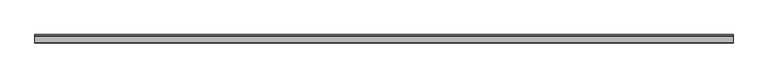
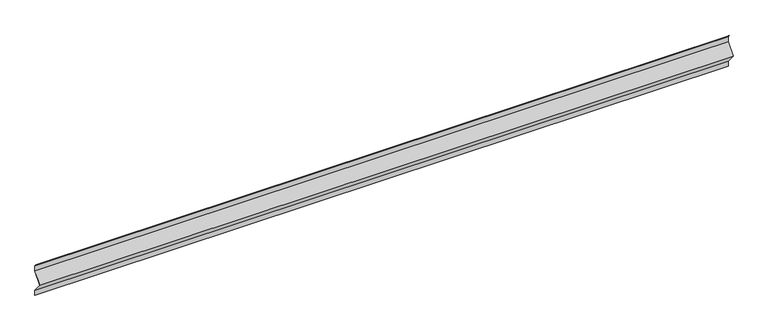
"""IFC4 building model written with IfcOpenShell, lengths in millimetres: plate geometry, HIANSA - H20.F09.008-CHAPA PERFILADA FACHADA HORIZONTAL - MT53MA6 - Panel de Muro Cortina : -."""

from ifc_helpers import new_model, si_unit, frame, origin, place, context, project, spatial, polyline, outline, extrude, source, transform, mapped, element, save


def plate_46b0d8f6(model_context):
    return source(origin(), model_context, "Body", "SweptSolid", [
        extrude(outline(polyline([(-0.8, 181.3614359), (-9.9629929, 193.0), (-8.944811, 193.0), (0.0, 181.6385641), (0.0, 148.0843078), (-51.7433424, 82.3614359), (0.0, 16.6385641), (0.0, -16.6385641), (-0.8, -16.6385641), (-0.8, 16.3614359), (-52.7615242, 82.3614359), (-0.8, 148.3614359), (-0.8, 181.3614359)])), frame((-2200.0, 0.0, 0.0), z_axis=(1.0, 0.0, 0.0), x_axis=(0.0, 1.0, 0.0)), (0.0, 0.0, 1.0), 4400.0),
    ])


if __name__ == "__main__":
    model = new_model("IFC4")
    model_context = context("Model", 3, world=origin())
    ifc_project = project(units=[si_unit("LENGTHUNIT", "METRE", prefix="MILLI")], contexts=[model_context])
    site = spatial("IfcSite", under=ifc_project)
    building = spatial("IfcBuilding", under=site)
    placement = place(None, origin())
    plate_shape = plate_46b0d8f6(model_context)
    element("IfcPlate", 1, ObjectType="HIANSA - H20.F09.008-CHAPA PERFILADA FACHADA HORIZONTAL - MT53MA6 - Panel de Muro Cortina : -", at=placement, inside=building, context=model_context, shape_type="MappedRepresentation", body=[
        mapped(plate_shape, transform((0.0, 0.0, 0.0), x_axis=(1.0, 0.0, 0.0), y_axis=(0.0, 1.0, 0.0), z_axis=(0.0, 0.0, 1.0))),
    ])
    save(model, "model.ifc")
